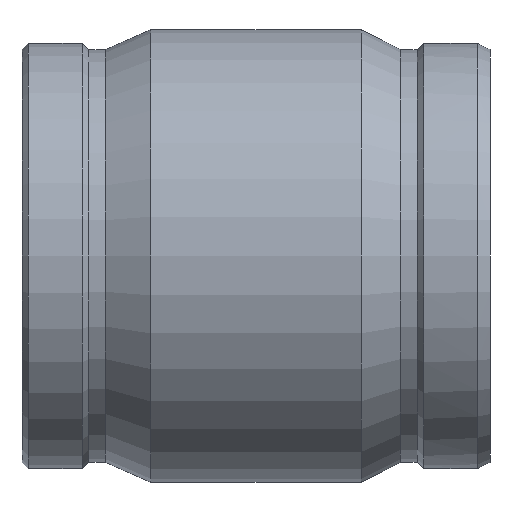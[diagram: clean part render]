
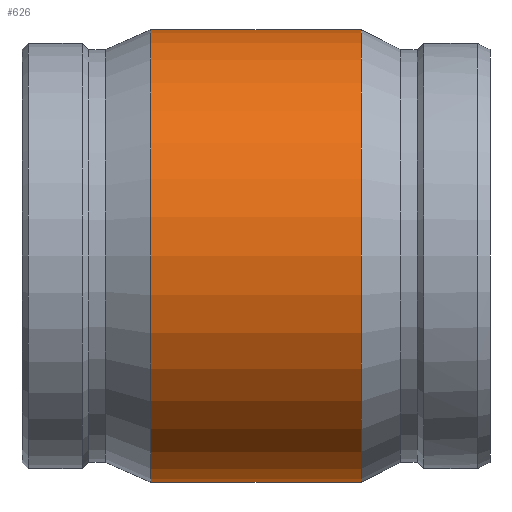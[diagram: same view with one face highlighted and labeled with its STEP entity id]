
A CAD part, front view. The second image highlights one B-rep face of the part: STEP entity #626.
In plain terms, the highlighted cylindrical face has radius 87.5 mm (diameter 175 mm), a full revolution.
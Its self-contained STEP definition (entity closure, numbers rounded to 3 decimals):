
#61=LINE('',#1195,#85);
#85=VECTOR('',#893,87.5);
#102=CYLINDRICAL_SURFACE('',#718,87.5);
#132=FACE_OUTER_BOUND('',#176,.T.);
#176=EDGE_LOOP('',(#508,#509,#510,#511,#512,#513));
#228=CIRCLE('',#716,87.5);
#229=CIRCLE('',#717,87.5);
#230=CIRCLE('',#719,87.5);
#231=CIRCLE('',#720,87.5);
#292=VERTEX_POINT('',#1185);
#293=VERTEX_POINT('',#1186);
#294=VERTEX_POINT('',#1191);
#295=VERTEX_POINT('',#1192);
#372=EDGE_CURVE('',#292,#293,#228,.T.);
#373=EDGE_CURVE('',#293,#292,#229,.T.);
#375=EDGE_CURVE('',#294,#295,#230,.T.);
#376=EDGE_CURVE('',#295,#294,#231,.T.);
#377=EDGE_CURVE('',#295,#293,#61,.T.);
#508=ORIENTED_EDGE('',*,*,#375,.F.);
#509=ORIENTED_EDGE('',*,*,#376,.F.);
#510=ORIENTED_EDGE('',*,*,#377,.T.);
#511=ORIENTED_EDGE('',*,*,#373,.T.);
#512=ORIENTED_EDGE('',*,*,#372,.T.);
#513=ORIENTED_EDGE('',*,*,#377,.F.);
#626=ADVANCED_FACE('',(#132),#102,.T.);
#716=AXIS2_PLACEMENT_3D('',#1187,#882,#883);
#717=AXIS2_PLACEMENT_3D('',#1188,#884,#885);
#718=AXIS2_PLACEMENT_3D('',#1190,#887,#888);
#719=AXIS2_PLACEMENT_3D('',#1193,#889,#890);
#720=AXIS2_PLACEMENT_3D('',#1194,#891,#892);
#882=DIRECTION('center_axis',(1.,0.,0.));
#883=DIRECTION('ref_axis',(0.,0.,-1.));
#884=DIRECTION('center_axis',(1.,0.,0.));
#885=DIRECTION('ref_axis',(0.,0.,-1.));
#887=DIRECTION('center_axis',(1.,0.,0.));
#888=DIRECTION('ref_axis',(0.,1.,0.));
#889=DIRECTION('center_axis',(1.,0.,0.));
#890=DIRECTION('ref_axis',(0.,0.,-1.));
#891=DIRECTION('center_axis',(1.,0.,0.));
#892=DIRECTION('ref_axis',(0.,0.,-1.));
#893=DIRECTION('',(-1.,0.,0.));
#1185=CARTESIAN_POINT('',(-40.725,87.5,0.));
#1186=CARTESIAN_POINT('',(-40.725,-87.5,0.));
#1187=CARTESIAN_POINT('Origin',(-40.725,0.,0.));
#1188=CARTESIAN_POINT('Origin',(-40.725,0.,0.));
#1190=CARTESIAN_POINT('Origin',(0.,0.,0.));
#1191=CARTESIAN_POINT('',(40.725,87.5,0.));
#1192=CARTESIAN_POINT('',(40.725,-87.5,0.));
#1193=CARTESIAN_POINT('Origin',(40.725,0.,0.));
#1194=CARTESIAN_POINT('Origin',(40.725,0.,0.));
#1195=CARTESIAN_POINT('',(0.,-87.5,0.));
